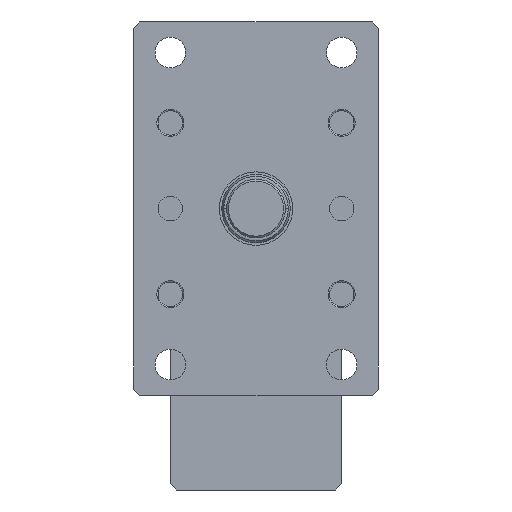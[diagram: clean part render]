
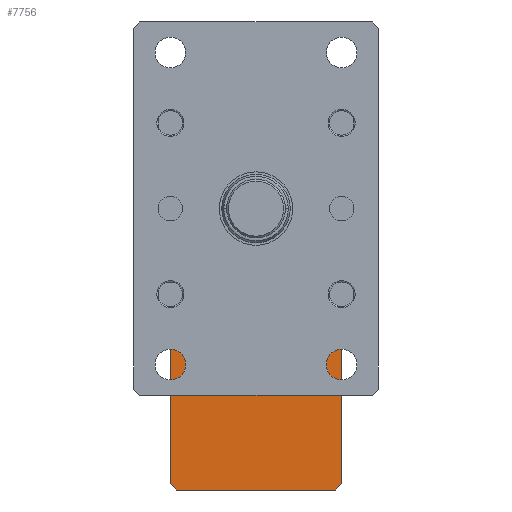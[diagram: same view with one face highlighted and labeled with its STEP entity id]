
A CAD part, left-side view. The second image highlights one B-rep face of the part: STEP entity #7756.
In plain terms, the highlighted planar face has unit normal (-1, 0, 0).
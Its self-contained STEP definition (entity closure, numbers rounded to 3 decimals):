
#195 = VERTEX_POINT ( 'NONE', #4221 ) ;
#484 = LINE ( 'NONE', #4448, #2307 ) ;
#625 = EDGE_CURVE ( 'NONE', #5037, #5430, #484, .T. ) ;
#712 = LINE ( 'NONE', #6662, #5766 ) ;
#753 = VERTEX_POINT ( 'NONE', #7086 ) ;
#834 = ORIENTED_EDGE ( 'NONE', *, *, #3861, .T. ) ;
#901 = CARTESIAN_POINT ( 'NONE',  ( 427.5, 70., -95. ) ) ;
#1292 = CARTESIAN_POINT ( 'NONE',  ( 427.5, -65., -230. ) ) ;
#1514 = EDGE_CURVE ( 'NONE', #195, #2434, #8169, .T. ) ;
#1764 = LINE ( 'NONE', #2546, #6769 ) ;
#2068 = VECTOR ( 'NONE', #5404, 1000. ) ;
#2255 = CARTESIAN_POINT ( 'NONE',  ( 427.5, 65., -230. ) ) ;
#2300 = ORIENTED_EDGE ( 'NONE', *, *, #4651, .T. ) ;
#2307 = VECTOR ( 'NONE', #8509, 1000. ) ;
#2336 = LINE ( 'NONE', #7609, #7567 ) ;
#2434 = VERTEX_POINT ( 'NONE', #2501 ) ;
#2457 = DIRECTION ( 'NONE',  ( 1., 0., 0. ) ) ;
#2471 = ORIENTED_EDGE ( 'NONE', *, *, #7176, .T. ) ;
#2472 = EDGE_CURVE ( 'NONE', #753, #5430, #7909, .T. ) ;
#2501 = CARTESIAN_POINT ( 'NONE',  ( 427.5, -70., -95. ) ) ;
#2546 = CARTESIAN_POINT ( 'NONE',  ( 427.5, 70., -90. ) ) ;
#2718 = VECTOR ( 'NONE', #5697, 1000. ) ;
#3028 = ORIENTED_EDGE ( 'NONE', *, *, #1514, .T. ) ;
#3180 = CARTESIAN_POINT ( 'NONE',  ( 427.5, 70., -225. ) ) ;
#3326 = ORIENTED_EDGE ( 'NONE', *, *, #8541, .T. ) ;
#3396 = LINE ( 'NONE', #2255, #8402 ) ;
#3547 = VERTEX_POINT ( 'NONE', #3592 ) ;
#3592 = CARTESIAN_POINT ( 'NONE',  ( 427.5, -65., -90. ) ) ;
#3663 = ORIENTED_EDGE ( 'NONE', *, *, #5329, .F. ) ;
#3783 = CARTESIAN_POINT ( 'NONE',  ( 427.5, -65., -230. ) ) ;
#3861 = EDGE_CURVE ( 'NONE', #2434, #3547, #712, .T. ) ;
#3979 = ORIENTED_EDGE ( 'NONE', *, *, #2472, .T. ) ;
#4039 = EDGE_LOOP ( 'NONE', ( #3028, #834, #2471, #3979, #4827, #2300, #3663, #3326 ) ) ;
#4221 = CARTESIAN_POINT ( 'NONE',  ( 427.5, -70., -225. ) ) ;
#4448 = CARTESIAN_POINT ( 'NONE',  ( 427.5, 70., -230. ) ) ;
#4512 = VECTOR ( 'NONE', #8676, 1000. ) ;
#4605 = CARTESIAN_POINT ( 'NONE',  ( 427.5, 70., -95. ) ) ;
#4651 = EDGE_CURVE ( 'NONE', #5037, #8859, #3396, .T. ) ;
#4827 = ORIENTED_EDGE ( 'NONE', *, *, #625, .F. ) ;
#5037 = VERTEX_POINT ( 'NONE', #3180 ) ;
#5185 = PLANE ( 'NONE',  #6423 ) ;
#5329 = EDGE_CURVE ( 'NONE', #8323, #8859, #2336, .T. ) ;
#5404 = DIRECTION ( 'NONE',  ( 0., -0.707, 0.707 ) ) ;
#5430 = VERTEX_POINT ( 'NONE', #901 ) ;
#5697 = DIRECTION ( 'NONE',  ( 0., 0., 1. ) ) ;
#5733 = LINE ( 'NONE', #1292, #2068 ) ;
#5766 = VECTOR ( 'NONE', #8035, 1000. ) ;
#6249 = DIRECTION ( 'NONE',  ( 0., 1., 0. ) ) ;
#6344 = CARTESIAN_POINT ( 'NONE',  ( 427.5, -70., -230. ) ) ;
#6423 = AXIS2_PLACEMENT_3D ( 'NONE', #6543, #2457, #7214 ) ;
#6543 = CARTESIAN_POINT ( 'NONE',  ( 427.5, 70., -230. ) ) ;
#6625 = DIRECTION ( 'NONE',  ( 0., 1., 0. ) ) ;
#6662 = CARTESIAN_POINT ( 'NONE',  ( 427.5, -70., -95. ) ) ;
#6769 = VECTOR ( 'NONE', #6625, 1000. ) ;
#7086 = CARTESIAN_POINT ( 'NONE',  ( 427.5, 65., -90. ) ) ;
#7176 = EDGE_CURVE ( 'NONE', #3547, #753, #1764, .T. ) ;
#7214 = DIRECTION ( 'NONE',  ( 0., 1., 0. ) ) ;
#7500 = CARTESIAN_POINT ( 'NONE',  ( 427.5, 65., -230. ) ) ;
#7567 = VECTOR ( 'NONE', #6249, 1000. ) ;
#7609 = CARTESIAN_POINT ( 'NONE',  ( 427.5, 70., -230. ) ) ;
#7756 = ADVANCED_FACE ( 'NONE', ( #8705 ), #5185, .F. ) ;
#7909 = LINE ( 'NONE', #4605, #4512 ) ;
#8035 = DIRECTION ( 'NONE',  ( 0., 0.707, 0.707 ) ) ;
#8169 = LINE ( 'NONE', #6344, #2718 ) ;
#8323 = VERTEX_POINT ( 'NONE', #3783 ) ;
#8402 = VECTOR ( 'NONE', #8404, 1000. ) ;
#8404 = DIRECTION ( 'NONE',  ( 0., -0.707, -0.707 ) ) ;
#8509 = DIRECTION ( 'NONE',  ( 0., 0., 1. ) ) ;
#8541 = EDGE_CURVE ( 'NONE', #8323, #195, #5733, .T. ) ;
#8676 = DIRECTION ( 'NONE',  ( 0., 0.707, -0.707 ) ) ;
#8705 = FACE_OUTER_BOUND ( 'NONE', #4039, .T. ) ;
#8859 = VERTEX_POINT ( 'NONE', #7500 ) ;
